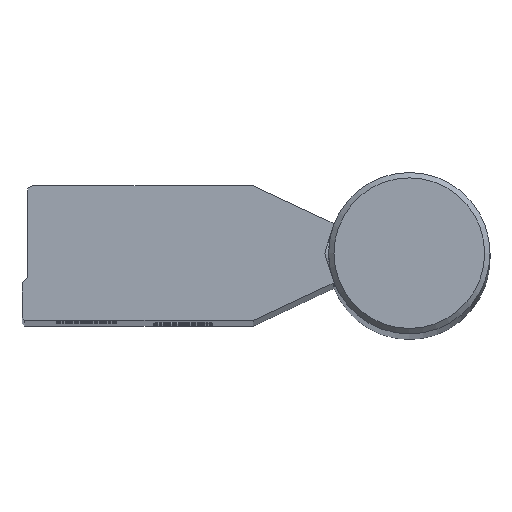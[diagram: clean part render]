
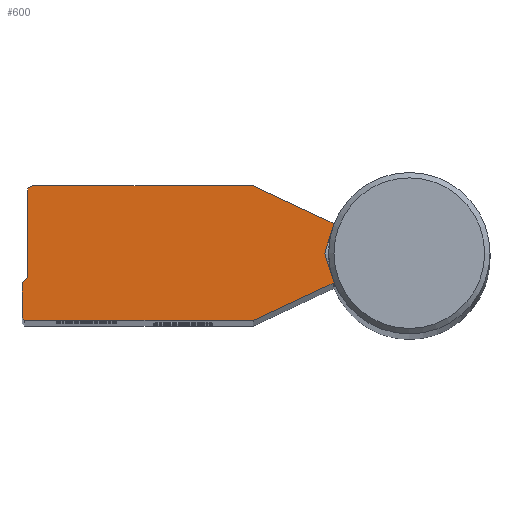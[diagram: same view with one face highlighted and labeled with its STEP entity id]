
A CAD part, top view. The second image highlights one B-rep face of the part: STEP entity #600.
In plain terms, the highlighted planar face has unit normal (0, 0, 1).
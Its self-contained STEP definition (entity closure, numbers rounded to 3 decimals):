
#600=ADVANCED_FACE('',(#915),#916,.F.);
#915=FACE_OUTER_BOUND('',#1266,.T.);
#916=PLANE('',#1267);
#1266=EDGE_LOOP('',(#1976,#1977,#1978,#1979,#1980,#1981,#1982,#1983,#1984,#1985,#1986));
#1267=AXIS2_PLACEMENT_3D('',#1987,#1988,#1989);
#1976=ORIENTED_EDGE('',*,*,#2237,.F.);
#1977=ORIENTED_EDGE('',*,*,#2339,.F.);
#1978=ORIENTED_EDGE('',*,*,#2340,.F.);
#1979=ORIENTED_EDGE('',*,*,#2341,.F.);
#1980=ORIENTED_EDGE('',*,*,#2342,.F.);
#1981=ORIENTED_EDGE('',*,*,#2233,.F.);
#1982=ORIENTED_EDGE('',*,*,#2218,.F.);
#1983=ORIENTED_EDGE('',*,*,#2225,.F.);
#1984=ORIENTED_EDGE('',*,*,#2343,.F.);
#1985=ORIENTED_EDGE('',*,*,#2344,.F.);
#1986=ORIENTED_EDGE('',*,*,#2345,.F.);
#1987=CARTESIAN_POINT('',(-70.0,12.5,300.0));
#1988=DIRECTION('',(0.0,0.0,-1.0));
#1989=DIRECTION('',(-1.0,0.0,0.0));
#2218=EDGE_CURVE('',#2503,#2505,#2506,.T.);
#2225=EDGE_CURVE('',#2515,#2503,#2517,.T.);
#2233=EDGE_CURVE('',#2505,#2529,#2530,.T.);
#2237=EDGE_CURVE('',#2535,#2537,#2538,.T.);
#2339=EDGE_CURVE('',#2720,#2535,#2721,.T.);
#2340=EDGE_CURVE('',#2722,#2720,#2723,.T.);
#2341=EDGE_CURVE('',#2724,#2722,#2725,.T.);
#2342=EDGE_CURVE('',#2529,#2724,#2726,.T.);
#2343=EDGE_CURVE('',#2727,#2515,#2728,.T.);
#2344=EDGE_CURVE('',#2729,#2727,#2730,.T.);
#2345=EDGE_CURVE('',#2537,#2729,#2731,.T.);
#2503=VERTEX_POINT('',#3317);
#2505=VERTEX_POINT('',#3320);
#2506=LINE('',#3321,#3322);
#2515=VERTEX_POINT('',#3335);
#2517=LINE('',#3338,#3339);
#2529=VERTEX_POINT('',#3356);
#2530=LINE('',#3357,#3358);
#2535=VERTEX_POINT('',#3364);
#2537=VERTEX_POINT('',#3367);
#2538=LINE('',#3368,#3369);
#2720=VERTEX_POINT('',#3564);
#2721=LINE('',#3565,#3566);
#2722=VERTEX_POINT('',#3567);
#2723=LINE('',#3568,#3569);
#2724=VERTEX_POINT('',#3570);
#2725=LINE('',#3571,#3572);
#2726=LINE('',#3573,#3574);
#2727=VERTEX_POINT('',#3575);
#2728=LINE('',#3576,#3577);
#2729=VERTEX_POINT('',#3578);
#2730=CIRCLE('',#3579,1.0);
#2731=LINE('',#3580,#3581);
#3317=CARTESIAN_POINT('',(-13.994,6.5,300.0));
#3320=CARTESIAN_POINT('',(-15.728,1.,300.0));
#3321=CARTESIAN_POINT('',(-13.994,6.5,300.0));
#3322=VECTOR('',#3772,1.0);
#3335=CARTESIAN_POINT('',(-29.005,13.5,300.0));
#3338=CARTESIAN_POINT('',(-29.005,13.5,300.0));
#3339=VECTOR('',#3781,1.0);
#3356=CARTESIAN_POINT('',(-13.994,-4.5,300.0));
#3357=CARTESIAN_POINT('',(-15.728,1.,300.0));
#3358=VECTOR('',#3793,1.0);
#3364=CARTESIAN_POINT('',(-72.0,-4.5,300.0));
#3367=CARTESIAN_POINT('',(-71.0,-3.5,300.0));
#3368=CARTESIAN_POINT('',(-72.0,-4.5,300.0));
#3369=VECTOR('',#3799,1.0);
#3564=CARTESIAN_POINT('',(-72.0,-11.0,300.0));
#3565=CARTESIAN_POINT('',(-72.0,-11.0,300.0));
#3566=VECTOR('',#4077,1.0);
#3567=CARTESIAN_POINT('',(-71.5,-11.5,300.0));
#3568=CARTESIAN_POINT('',(-71.5,-11.5,300.0));
#3569=VECTOR('',#4078,1.0);
#3570=CARTESIAN_POINT('',(-29.005,-11.5,300.0));
#3571=CARTESIAN_POINT('',(-29.005,-11.5,300.0));
#3572=VECTOR('',#4079,1.0);
#3573=CARTESIAN_POINT('',(-13.994,-4.5,300.0));
#3574=VECTOR('',#4080,1.0);
#3575=CARTESIAN_POINT('',(-70.0,13.5,300.0));
#3576=CARTESIAN_POINT('',(-70.0,13.5,300.0));
#3577=VECTOR('',#4081,1.0);
#3578=CARTESIAN_POINT('',(-71.0,12.5,300.0));
#3579=AXIS2_PLACEMENT_3D('',#4082,#4083,#4084);
#3580=CARTESIAN_POINT('',(-71.0,-3.5,300.0));
#3581=VECTOR('',#4085,1.0);
#3772=DIRECTION('',(-0.301,-0.954,0.0));
#3781=DIRECTION('',(0.906,-0.423,0.0));
#3793=DIRECTION('',(0.301,-0.954,0.0));
#3799=DIRECTION('',(0.707,0.707,0.0));
#4077=DIRECTION('',(0.0,1.0,0.0));
#4078=DIRECTION('',(-0.707,0.707,0.0));
#4079=DIRECTION('',(-1.0,0.0,0.0));
#4080=DIRECTION('',(-0.906,-0.423,0.0));
#4081=DIRECTION('',(1.0,0.0,0.0));
#4082=CARTESIAN_POINT('',(-70.0,12.5,300.0));
#4083=DIRECTION('',(0.0,0.0,-1.0));
#4084=DIRECTION('',(1.0,0.0,0.0));
#4085=DIRECTION('',(0.0,1.0,0.0));
